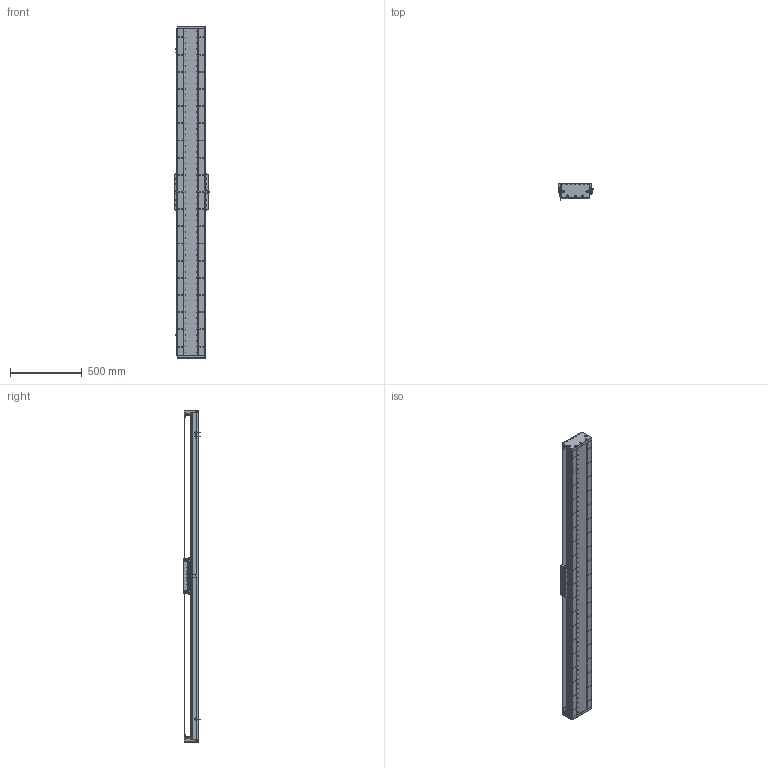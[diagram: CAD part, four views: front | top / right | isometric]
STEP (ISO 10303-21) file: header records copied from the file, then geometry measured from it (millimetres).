
FILE_DESCRIPTION (( 'STEP AP203' ), '1' );
FILE_NAME ('DA-C195-C3-T1980-C010-0.2 眻盄萇儂.STEP', '2025-08-15T01:35:21', ( '' ), ( '' ), 'SwSTEP 2.0', 'SolidWorks 2019', '' );
FILE_SCHEMA (( 'CONFIG_CONTROL_DESIGN' ));
Length unit declared in the file: millimetre
Products named in the file (15): 葩璃 DA95-GT-T-00; DA195詩湍郪璃; DA-C195-GD-DB-H-00 傷啣; IU-CU195-L-00 菁釱(L2280); DA195詩湍菜輸; DA-C195-C3-T1980-C010-0.2 眻盄萇儂; CU195-C3賑輸-俋楷; DA165-GYP-00 光电感应片(默认); MS200 棠掑喜S315-T240; DA195詩湍嶺輸; PM-T45ㄗ侂狟ㄘ; DA95-HXJ-00 遣喳砎蝶; DA195詩湍裔啣; LMT黍杅芛; IU-CU195-L 菁釱絳寢
Assembly tree (29 placements, depth 3):
  DA-C195-C3-T1980-C010-0.2 眻盄萇儂
    DA195詩湍郪璃
      DA195詩湍菜輸  x2
      DA195詩湍裔啣
      DA195詩湍嶺輸  x2
      DA95-HXJ-00 遣喳砎蝶  x8
      DA-C195-GD-DB-H-00 傷啣  x2
    IU-CU195-L 菁釱絳寢
      IU-CU195-L-00 菁釱(L2280)
      葩璃 DA95-GT-T-00  x4
    LMT黍杅芛
    MS200 棠掑喜S315-T240
    PM-T45ㄗ侂狟ㄘ  x3
    DA165-GYP-00 光电感应片(默认)
    CU195-C3賑輸-俋楷
Bounding box: 248 x 115.45 x 2320 mm (x, y, z)
Volume: 13921611.3 mm3; surface area: 4062479.3 mm2
Topology: 86 solids, 118 shells, 4194 faces, 11655 edges, 7329 vertices
Faces by surface type: cylinder 2234, plane 1358, cone 514, torus 52, sphere 36
Entity records: 132255 total; most frequent: CARTESIAN_POINT 34848, ORIENTED_EDGE 20226, DIRECTION 19702, EDGE_CURVE 10113, AXIS2_PLACEMENT_3D 7393, VERTEX_POINT 6531, LINE 4916, VECTOR 4916
